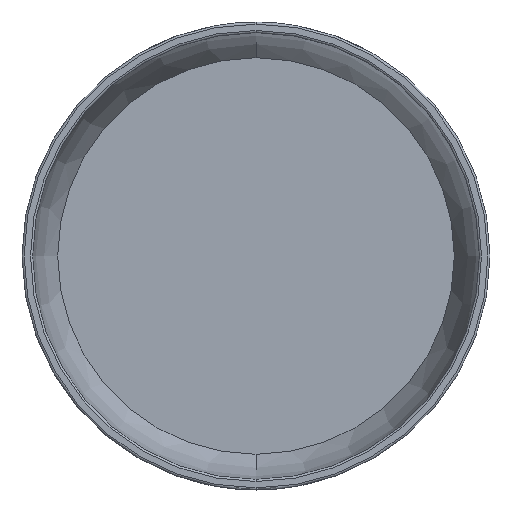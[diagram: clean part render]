
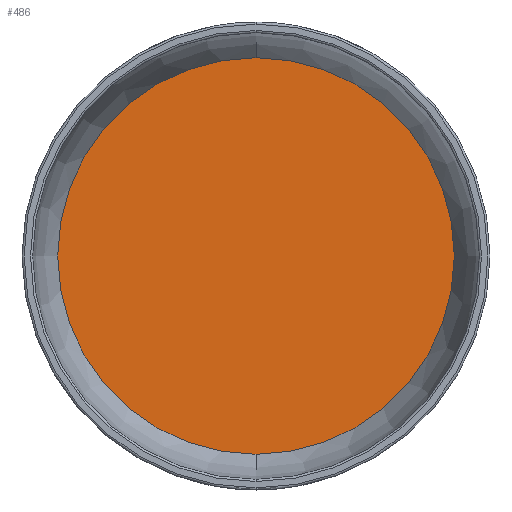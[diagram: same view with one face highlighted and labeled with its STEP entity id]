
A CAD part, front view. The second image highlights one B-rep face of the part: STEP entity #486.
In plain terms, the highlighted planar face has unit normal (0, -1, 0).
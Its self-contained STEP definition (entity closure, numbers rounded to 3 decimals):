
#200 = ORIENTED_EDGE ( 'NONE', *, *, #1100, .F. ) ;
#220 = DIRECTION ( 'NONE',  ( 0., 0., -1. ) ) ;
#249 = PLANE ( 'NONE',  #546 ) ;
#259 = DIRECTION ( 'NONE',  ( 0., 0., 1. ) ) ;
#273 = CARTESIAN_POINT ( 'NONE',  ( 0., 44.548, 0. ) ) ;
#291 = AXIS2_PLACEMENT_3D ( 'NONE', #273, #497, #259 ) ;
#362 = CARTESIAN_POINT ( 'NONE',  ( 0., 44.548, 93.201 ) ) ;
#400 = DIRECTION ( 'NONE',  ( 0., 1., 0. ) ) ;
#486 = ADVANCED_FACE ( 'NONE', ( #1106 ), #249, .T. ) ;
#497 = DIRECTION ( 'NONE',  ( 0., 1., 0. ) ) ;
#506 = CARTESIAN_POINT ( 'NONE',  ( -93.201, 44.548, 0. ) ) ;
#544 = EDGE_CURVE ( 'NONE', #1012, #852, #590, .T. ) ;
#546 = AXIS2_PLACEMENT_3D ( 'NONE', #506, #851, #220 ) ;
#552 = CARTESIAN_POINT ( 'NONE',  ( 0., 44.548, 0. ) ) ;
#561 = CARTESIAN_POINT ( 'NONE',  ( 0., 44.548, -93.201 ) ) ;
#590 = CIRCLE ( 'NONE', #291, 93.201 ) ;
#658 = DIRECTION ( 'NONE',  ( 0., 0., 1. ) ) ;
#811 = ORIENTED_EDGE ( 'NONE', *, *, #544, .F. ) ;
#819 = AXIS2_PLACEMENT_3D ( 'NONE', #552, #400, #658 ) ;
#851 = DIRECTION ( 'NONE',  ( 0., -1., 0. ) ) ;
#852 = VERTEX_POINT ( 'NONE', #362 ) ;
#874 = CIRCLE ( 'NONE', #819, 93.201 ) ;
#1012 = VERTEX_POINT ( 'NONE', #561 ) ;
#1086 = EDGE_LOOP ( 'NONE', ( #200, #811 ) ) ;
#1100 = EDGE_CURVE ( 'NONE', #852, #1012, #874, .T. ) ;
#1106 = FACE_OUTER_BOUND ( 'NONE', #1086, .T. ) ;
